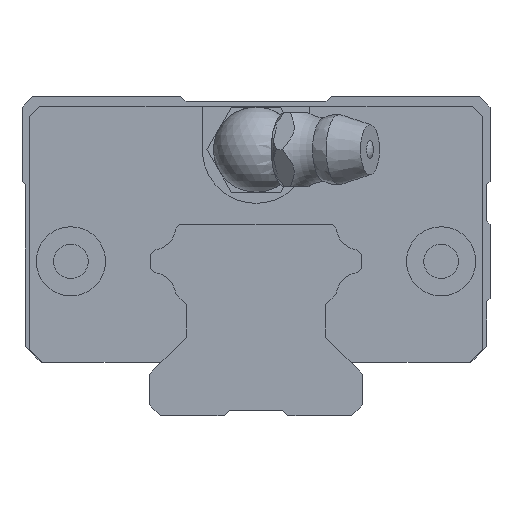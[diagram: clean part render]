
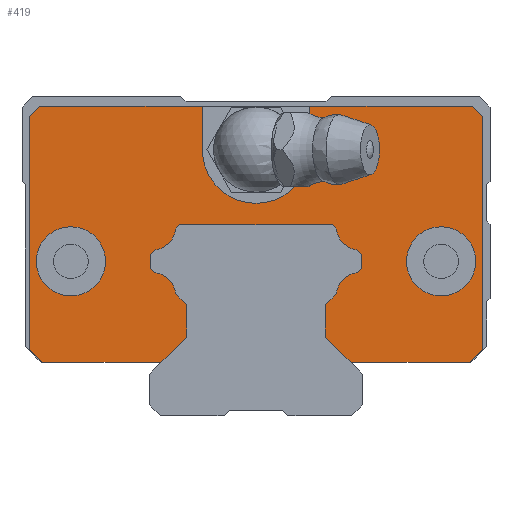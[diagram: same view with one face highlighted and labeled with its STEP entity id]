
A CAD part, front view. The second image highlights one B-rep face of the part: STEP entity #419.
In plain terms, the highlighted planar face has unit normal (0, -1, 0).
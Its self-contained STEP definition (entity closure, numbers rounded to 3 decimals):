
#180=FACE_BOUND('',#899,.T.);
#181=FACE_BOUND('',#900,.T.);
#265=CIRCLE('',#3266,2.2);
#267=CIRCLE('',#3272,2.2);
#269=CIRCLE('',#3278,2.2);
#271=CIRCLE('',#3284,2.2);
#281=CIRCLE('',#3326,3.25);
#282=CIRCLE('',#3327,3.25);
#283=CIRCLE('',#3328,5.05);
#419=ADVANCED_FACE('',(#180,#181,#724),#576,.F.);
#576=PLANE('',#3329);
#724=FACE_OUTER_BOUND('',#901,.T.);
#899=EDGE_LOOP('',(#1436));
#900=EDGE_LOOP('',(#1437));
#901=EDGE_LOOP('',(#1438,#1439,#1440,#1441,#1442,#1443,#1444,#1445,#1446,
#1447,#1448,#1449,#1450,#1451,#1452,#1453,#1454,#1455,#1456,#1457,#1458,
#1459,#1460,#1461,#1462,#1463,#1464,#1465,#1466,#1467,#1468,#1469));
#1436=ORIENTED_EDGE('',*,*,#2400,.F.);
#1437=ORIENTED_EDGE('',*,*,#2401,.F.);
#1438=ORIENTED_EDGE('',*,*,#2402,.F.);
#1439=ORIENTED_EDGE('',*,*,#2403,.T.);
#1440=ORIENTED_EDGE('',*,*,#2389,.T.);
#1441=ORIENTED_EDGE('',*,*,#2384,.F.);
#1442=ORIENTED_EDGE('',*,*,#2399,.T.);
#1443=ORIENTED_EDGE('',*,*,#2397,.T.);
#1444=ORIENTED_EDGE('',*,*,#2330,.T.);
#1445=ORIENTED_EDGE('',*,*,#2322,.T.);
#1446=ORIENTED_EDGE('',*,*,#2319,.F.);
#1447=ORIENTED_EDGE('',*,*,#2316,.F.);
#1448=ORIENTED_EDGE('',*,*,#2313,.T.);
#1449=ORIENTED_EDGE('',*,*,#2310,.F.);
#1450=ORIENTED_EDGE('',*,*,#2307,.F.);
#1451=ORIENTED_EDGE('',*,*,#2304,.T.);
#1452=ORIENTED_EDGE('',*,*,#2301,.T.);
#1453=ORIENTED_EDGE('',*,*,#2298,.T.);
#1454=ORIENTED_EDGE('',*,*,#2295,.T.);
#1455=ORIENTED_EDGE('',*,*,#2292,.F.);
#1456=ORIENTED_EDGE('',*,*,#2289,.T.);
#1457=ORIENTED_EDGE('',*,*,#2286,.F.);
#1458=ORIENTED_EDGE('',*,*,#2283,.T.);
#1459=ORIENTED_EDGE('',*,*,#2280,.T.);
#1460=ORIENTED_EDGE('',*,*,#2277,.T.);
#1461=ORIENTED_EDGE('',*,*,#2274,.T.);
#1462=ORIENTED_EDGE('',*,*,#2271,.T.);
#1463=ORIENTED_EDGE('',*,*,#2268,.F.);
#1464=ORIENTED_EDGE('',*,*,#2263,.T.);
#1465=ORIENTED_EDGE('',*,*,#2396,.T.);
#1466=ORIENTED_EDGE('',*,*,#2394,.F.);
#1467=ORIENTED_EDGE('',*,*,#2392,.F.);
#1468=ORIENTED_EDGE('',*,*,#2387,.T.);
#1469=ORIENTED_EDGE('',*,*,#2404,.F.);
#1937=VERTEX_POINT('',#4717);
#1938=VERTEX_POINT('',#4719);
#1942=VERTEX_POINT('',#4729);
#1944=VERTEX_POINT('',#4735);
#1946=VERTEX_POINT('',#4741);
#1948=VERTEX_POINT('',#4747);
#1950=VERTEX_POINT('',#4753);
#1952=VERTEX_POINT('',#4759);
#1954=VERTEX_POINT('',#4765);
#1956=VERTEX_POINT('',#4771);
#1958=VERTEX_POINT('',#4777);
#1960=VERTEX_POINT('',#4783);
#1962=VERTEX_POINT('',#4789);
#1964=VERTEX_POINT('',#4795);
#1966=VERTEX_POINT('',#4801);
#1968=VERTEX_POINT('',#4807);
#1970=VERTEX_POINT('',#4813);
#1972=VERTEX_POINT('',#4819);
#1974=VERTEX_POINT('',#4825);
#1976=VERTEX_POINT('',#4831);
#1978=VERTEX_POINT('',#4837);
#1985=VERTEX_POINT('',#4853);
#2024=VERTEX_POINT('',#4966);
#2025=VERTEX_POINT('',#4968);
#2026=VERTEX_POINT('',#4972);
#2028=VERTEX_POINT('',#4975);
#2029=VERTEX_POINT('',#4978);
#2031=VERTEX_POINT('',#4984);
#2032=VERTEX_POINT('',#4988);
#2033=VERTEX_POINT('',#4994);
#2034=VERTEX_POINT('',#5000);
#2035=VERTEX_POINT('',#5002);
#2036=VERTEX_POINT('',#5004);
#2037=VERTEX_POINT('',#5005);
#2263=EDGE_CURVE('',#1938,#1937,#2651,.T.);
#2268=EDGE_CURVE('',#1938,#1942,#2656,.T.);
#2271=EDGE_CURVE('',#1944,#1942,#2659,.T.);
#2274=EDGE_CURVE('',#1946,#1944,#2662,.T.);
#2277=EDGE_CURVE('',#1948,#1946,#265,.T.);
#2280=EDGE_CURVE('',#1950,#1948,#2666,.T.);
#2283=EDGE_CURVE('',#1952,#1950,#2669,.T.);
#2286=EDGE_CURVE('',#1952,#1954,#2672,.T.);
#2289=EDGE_CURVE('',#1956,#1954,#267,.T.);
#2292=EDGE_CURVE('',#1956,#1958,#2676,.T.);
#2295=EDGE_CURVE('',#1960,#1958,#2679,.T.);
#2298=EDGE_CURVE('',#1962,#1960,#2682,.T.);
#2301=EDGE_CURVE('',#1964,#1962,#269,.T.);
#2304=EDGE_CURVE('',#1966,#1964,#2686,.T.);
#2307=EDGE_CURVE('',#1966,#1968,#2689,.T.);
#2310=EDGE_CURVE('',#1968,#1970,#2692,.T.);
#2313=EDGE_CURVE('',#1972,#1970,#271,.T.);
#2316=EDGE_CURVE('',#1972,#1974,#2696,.T.);
#2319=EDGE_CURVE('',#1974,#1976,#2699,.T.);
#2322=EDGE_CURVE('',#1978,#1976,#2702,.T.);
#2330=EDGE_CURVE('',#1985,#1978,#2710,.T.);
#2384=EDGE_CURVE('',#2024,#2025,#2756,.T.);
#2387=EDGE_CURVE('',#2028,#2026,#2759,.T.);
#2389=EDGE_CURVE('',#2029,#2025,#2761,.T.);
#2392=EDGE_CURVE('',#2028,#2031,#2764,.T.);
#2394=EDGE_CURVE('',#2031,#2032,#2766,.T.);
#2396=EDGE_CURVE('',#1937,#2032,#2768,.T.);
#2397=EDGE_CURVE('',#2033,#1985,#2769,.T.);
#2399=EDGE_CURVE('',#2024,#2033,#2771,.T.);
#2400=EDGE_CURVE('',#2034,#2034,#281,.T.);
#2401=EDGE_CURVE('',#2035,#2035,#282,.T.);
#2402=EDGE_CURVE('',#2036,#2037,#283,.T.);
#2403=EDGE_CURVE('',#2036,#2029,#2772,.T.);
#2404=EDGE_CURVE('',#2037,#2026,#2773,.T.);
#2651=LINE('',#4718,#2959);
#2656=LINE('',#4728,#2964);
#2659=LINE('',#4734,#2967);
#2662=LINE('',#4740,#2970);
#2666=LINE('',#4752,#2974);
#2669=LINE('',#4758,#2977);
#2672=LINE('',#4764,#2980);
#2676=LINE('',#4776,#2984);
#2679=LINE('',#4782,#2987);
#2682=LINE('',#4788,#2990);
#2686=LINE('',#4800,#2994);
#2689=LINE('',#4806,#2997);
#2692=LINE('',#4812,#3000);
#2696=LINE('',#4824,#3004);
#2699=LINE('',#4830,#3007);
#2702=LINE('',#4836,#3010);
#2710=LINE('',#4852,#3018);
#2756=LINE('',#4967,#3064);
#2759=LINE('',#4974,#3067);
#2761=LINE('',#4977,#3069);
#2764=LINE('',#4983,#3072);
#2766=LINE('',#4987,#3074);
#2768=LINE('',#4991,#3076);
#2769=LINE('',#4993,#3077);
#2771=LINE('',#4997,#3079);
#2772=LINE('',#5006,#3080);
#2773=LINE('',#5007,#3081);
#2959=VECTOR('',#3665,1.);
#2964=VECTOR('',#3672,1.);
#2967=VECTOR('',#3677,1.);
#2970=VECTOR('',#3682,1.);
#2974=VECTOR('',#3694,1.);
#2977=VECTOR('',#3699,1.);
#2980=VECTOR('',#3704,1.);
#2984=VECTOR('',#3716,1.);
#2987=VECTOR('',#3721,1.);
#2990=VECTOR('',#3726,1.);
#2994=VECTOR('',#3738,1.);
#2997=VECTOR('',#3743,1.);
#3000=VECTOR('',#3748,1.);
#3004=VECTOR('',#3760,1.);
#3007=VECTOR('',#3765,1.);
#3010=VECTOR('',#3770,1.);
#3018=VECTOR('',#3780,1.);
#3064=VECTOR('',#3884,1.);
#3067=VECTOR('',#3889,1.);
#3069=VECTOR('',#3891,1.);
#3072=VECTOR('',#3896,1.);
#3074=VECTOR('',#3900,1.);
#3076=VECTOR('',#3904,1.);
#3077=VECTOR('',#3907,1.);
#3079=VECTOR('',#3911,1.);
#3080=VECTOR('',#3920,1.);
#3081=VECTOR('',#3921,1.);
#3266=AXIS2_PLACEMENT_3D('',#4746,#3687,#3688);
#3272=AXIS2_PLACEMENT_3D('',#4770,#3709,#3710);
#3278=AXIS2_PLACEMENT_3D('',#4794,#3731,#3732);
#3284=AXIS2_PLACEMENT_3D('',#4818,#3753,#3754);
#3326=AXIS2_PLACEMENT_3D('',#4999,#3914,#3915);
#3327=AXIS2_PLACEMENT_3D('',#5001,#3916,#3917);
#3328=AXIS2_PLACEMENT_3D('',#5003,#3918,#3919);
#3329=AXIS2_PLACEMENT_3D('',#5008,#3922,#3923);
#3665=DIRECTION('',(1.,0.,0.));
#3672=DIRECTION('',(-0.707,0.,0.707));
#3677=DIRECTION('',(0.,0.,-1.));
#3682=DIRECTION('',(-0.707,0.,-0.707));
#3687=DIRECTION('',(0.,-1.,0.));
#3688=DIRECTION('',(1.,0.,0.));
#3694=DIRECTION('',(-0.707,0.,-0.707));
#3699=DIRECTION('',(0.,0.,-1.));
#3704=DIRECTION('',(-0.707,0.,0.707));
#3709=DIRECTION('',(0.,-1.,0.));
#3710=DIRECTION('',(1.,0.,0.));
#3716=DIRECTION('',(-0.707,0.,0.707));
#3721=DIRECTION('',(1.,0.,0.));
#3726=DIRECTION('',(0.707,0.,0.707));
#3731=DIRECTION('',(0.,-1.,0.));
#3732=DIRECTION('',(1.,0.,0.));
#3738=DIRECTION('',(0.707,0.,0.707));
#3743=DIRECTION('',(0.,0.,-1.));
#3748=DIRECTION('',(0.707,0.,-0.707));
#3753=DIRECTION('',(0.,-1.,0.));
#3754=DIRECTION('',(1.,0.,0.));
#3760=DIRECTION('',(0.707,0.,-0.707));
#3765=DIRECTION('',(0.,0.,-1.));
#3770=DIRECTION('',(0.707,0.,0.707));
#3780=DIRECTION('',(1.,0.,0.));
#3884=DIRECTION('',(0.707,0.,0.707));
#3889=DIRECTION('',(-1.,0.,0.));
#3891=DIRECTION('',(-1.,0.,0.));
#3896=DIRECTION('',(0.707,0.,-0.707));
#3900=DIRECTION('',(0.,0.,-1.));
#3904=DIRECTION('',(0.707,0.,0.707));
#3907=DIRECTION('',(0.707,0.,-0.707));
#3911=DIRECTION('',(0.,0.,-1.));
#3914=DIRECTION('',(0.,-1.,0.));
#3915=DIRECTION('',(0.,0.,-1.));
#3916=DIRECTION('',(0.,-1.,0.));
#3917=DIRECTION('',(0.,0.,-1.));
#3918=DIRECTION('',(0.,-1.,0.));
#3919=DIRECTION('',(1.,0.,0.));
#3920=DIRECTION('',(0.,0.,1.));
#3921=DIRECTION('',(0.,0.,1.));
#3922=DIRECTION('',(0.,1.,0.));
#3923=DIRECTION('',(0.,0.,-1.));
#4717=CARTESIAN_POINT('',(20.059,-36.95,5.));
#4718=CARTESIAN_POINT('',(8.901,-36.95,5.));
#4719=CARTESIAN_POINT('',(8.901,-36.95,5.));
#4728=CARTESIAN_POINT('',(8.901,-36.95,5.));
#4729=CARTESIAN_POINT('',(6.53,-36.95,7.371));
#4734=CARTESIAN_POINT('',(6.53,-36.95,10.429));
#4735=CARTESIAN_POINT('',(6.53,-36.95,10.429));
#4740=CARTESIAN_POINT('',(7.564,-36.95,11.463));
#4741=CARTESIAN_POINT('',(7.564,-36.95,11.463));
#4746=CARTESIAN_POINT('',(9.753,-36.95,11.247));
#4747=CARTESIAN_POINT('',(9.537,-36.95,13.436));
#4752=CARTESIAN_POINT('',(9.93,-36.95,13.829));
#4753=CARTESIAN_POINT('',(9.93,-36.95,13.829));
#4758=CARTESIAN_POINT('',(9.93,-36.95,15.171));
#4759=CARTESIAN_POINT('',(9.93,-36.95,15.171));
#4764=CARTESIAN_POINT('',(9.93,-36.95,15.171));
#4765=CARTESIAN_POINT('',(9.537,-36.95,15.564));
#4770=CARTESIAN_POINT('',(9.753,-36.95,17.753));
#4771=CARTESIAN_POINT('',(7.564,-36.95,17.537));
#4776=CARTESIAN_POINT('',(7.564,-36.95,17.537));
#4777=CARTESIAN_POINT('',(7.171,-36.95,17.93));
#4782=CARTESIAN_POINT('',(-7.171,-36.95,17.93));
#4783=CARTESIAN_POINT('',(-7.171,-36.95,17.93));
#4788=CARTESIAN_POINT('',(-7.564,-36.95,17.537));
#4789=CARTESIAN_POINT('',(-7.564,-36.95,17.537));
#4794=CARTESIAN_POINT('',(-9.753,-36.95,17.753));
#4795=CARTESIAN_POINT('',(-9.537,-36.95,15.564));
#4800=CARTESIAN_POINT('',(-9.93,-36.95,15.171));
#4801=CARTESIAN_POINT('',(-9.93,-36.95,15.171));
#4806=CARTESIAN_POINT('',(-9.93,-36.95,15.171));
#4807=CARTESIAN_POINT('',(-9.93,-36.95,13.829));
#4812=CARTESIAN_POINT('',(-9.93,-36.95,13.829));
#4813=CARTESIAN_POINT('',(-9.537,-36.95,13.436));
#4818=CARTESIAN_POINT('',(-9.753,-36.95,11.247));
#4819=CARTESIAN_POINT('',(-7.564,-36.95,11.463));
#4824=CARTESIAN_POINT('',(-7.564,-36.95,11.463));
#4825=CARTESIAN_POINT('',(-6.53,-36.95,10.429));
#4830=CARTESIAN_POINT('',(-6.53,-36.95,10.429));
#4831=CARTESIAN_POINT('',(-6.53,-36.95,7.371));
#4836=CARTESIAN_POINT('',(-8.901,-36.95,5.));
#4837=CARTESIAN_POINT('',(-8.901,-36.95,5.));
#4852=CARTESIAN_POINT('',(-20.059,-36.95,5.));
#4853=CARTESIAN_POINT('',(-20.059,-36.95,5.));
#4966=CARTESIAN_POINT('',(-21.3,-36.95,28.159));
#4967=CARTESIAN_POINT('',(-21.3,-36.95,28.159));
#4968=CARTESIAN_POINT('',(-20.359,-36.95,29.1));
#4972=CARTESIAN_POINT('',(5.05,-36.95,29.1));
#4974=CARTESIAN_POINT('',(20.359,-36.95,29.1));
#4975=CARTESIAN_POINT('',(20.359,-36.95,29.1));
#4977=CARTESIAN_POINT('',(20.359,-36.95,29.1));
#4978=CARTESIAN_POINT('',(-5.05,-36.95,29.1));
#4983=CARTESIAN_POINT('',(20.359,-36.95,29.1));
#4984=CARTESIAN_POINT('',(21.3,-36.95,28.159));
#4987=CARTESIAN_POINT('',(21.3,-36.95,28.159));
#4988=CARTESIAN_POINT('',(21.3,-36.95,6.241));
#4991=CARTESIAN_POINT('',(20.059,-36.95,5.));
#4993=CARTESIAN_POINT('',(-21.3,-36.95,6.241));
#4994=CARTESIAN_POINT('',(-21.3,-36.95,6.241));
#4997=CARTESIAN_POINT('',(-21.3,-36.95,28.159));
#4999=CARTESIAN_POINT('',(17.4,-36.95,14.5));
#5000=CARTESIAN_POINT('',(17.4,-36.95,11.25));
#5001=CARTESIAN_POINT('',(-17.4,-36.95,14.5));
#5002=CARTESIAN_POINT('',(-17.4,-36.95,11.25));
#5003=CARTESIAN_POINT('',(0.,-36.95,25.));
#5004=CARTESIAN_POINT('',(-5.05,-36.95,25.));
#5005=CARTESIAN_POINT('',(5.05,-36.95,25.));
#5006=CARTESIAN_POINT('',(-5.05,-36.95,25.));
#5007=CARTESIAN_POINT('',(5.05,-36.95,25.));
#5008=CARTESIAN_POINT('',(9.753,-36.95,11.247));
